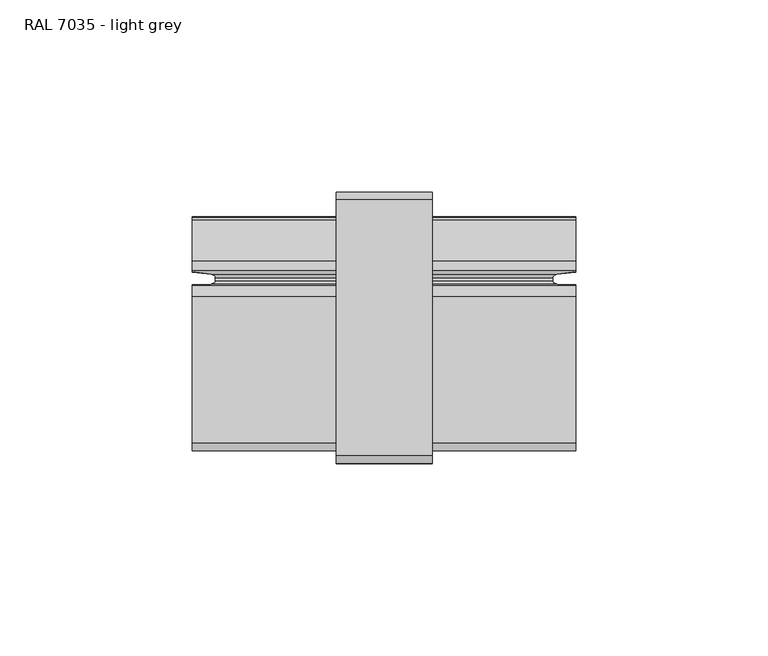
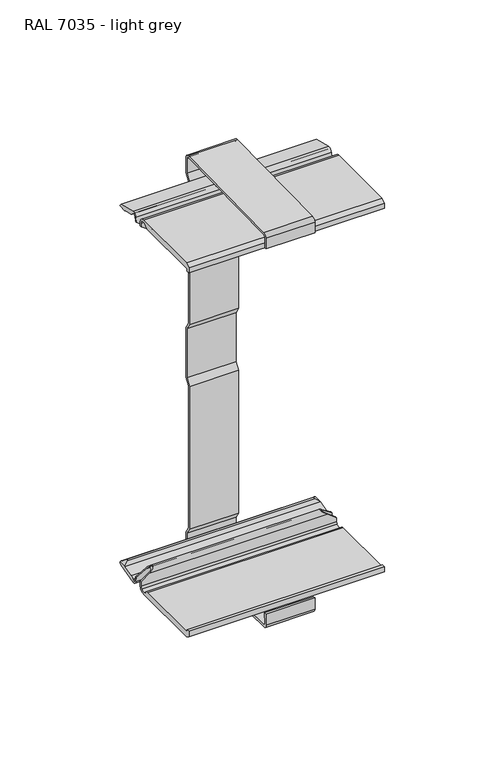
"""IFC4 building model written with IfcOpenShell, lengths in millimetres: cable carrier fitting geometry, Electrical_Installations_Hager_BRP-Cover-Joint-And-Coupling-Set-Two-Compartments : RAL 7035 - light grey."""

from ifc_helpers import new_model, si_unit, point, frame, frame_2d, origin, place, context, project, spatial, polyline, circle_curve, ellipse_curve, trimmed, segment, composite_curve, outline, extrude, source, transform, mapped, element, save
from ifc_brep_helpers import plane_surface, cylinder_surface, revolved_surface, advanced_brep


def ral_7035_light_grey_b6fd4582(model_context):
    return source(origin(), model_context, "Body", "SolidModel", [
        advanced_brep(
        [(62.4539331, 9.9349646, -101.0), (62.4539331, 12.8937369, -98.1922299), (62.4539331, 13.0071302, -96.0285563), (62.4539331, 12.2060324, -96.0285563), (62.4539331, 12.0972278, -98.1046719), (62.4539331, 11.5722919, -99.3374822), (62.4539331, 8.6154068, -99.3374822), (62.4539331, 6.2408586, -98.0), (62.4539331, -28.4602638, -98.0), (62.4539331, -28.6935202, -96.8), (62.4539331, -30.1909579, -96.8), (62.4539331, -30.1909579, -99.5922147), (62.4539331, -28.1804322, -101.0), (62.4539331, 17.5959093, -98.5220563), (62.4539331, 17.156238, -96.0285563), (62.4539331, 16.3438967, -96.0285563), (62.4539331, 16.7875988, -98.5449161), (62.4539331, 19.2813243, -100.1597234), (62.4539331, 29.987087, -97.4606875), (62.4539331, 30.6071146, -96.6025774), (62.4539331, 30.713567, -96.0285563), (62.4539331, 26.7038341, -96.0285563), (62.4539331, 26.5295278, -96.269794), (62.4539331, 20.75928, -97.7245344), (62.4539331, 19.3924465, -98.8388343), (-37.4991238, 9.9349646, -101.0), (-37.4991238, -28.1804322, -101.0), (-37.4991238, -30.1909579, -99.5922147), (-37.4991238, -30.1909579, -96.8), (-37.4991238, -28.6935202, -96.8), (-37.4991238, -28.4602638, -98.0), (-37.4991238, 6.2408586, -98.0), (-37.4991238, 8.6154068, -99.3374822), (-37.4991238, 11.5722919, -99.3374822), (-37.4991238, 12.0972278, -98.1046719), (-37.4991238, 12.2043745, -96.0601898), (-37.4991238, 13.0054724, -96.0601898), (-37.4991238, 12.8937369, -98.1922299), (-37.4991238, 16.7875988, -98.5449161), (-37.4991238, 16.3494745, -96.0601898), (-37.4991238, 17.1618158, -96.0601898), (-37.4991238, 17.5959093, -98.5220563), (-37.4991238, 19.3924465, -98.8388343), (-37.4991238, 20.75928, -97.7245344), (-37.4991238, 26.5295278, -96.269794), (-37.4991238, 26.6809773, -96.0601898), (-37.4991238, 30.7211446, -96.0601898), (-37.4991238, 30.6071146, -96.6025774), (-37.4991238, 29.987087, -97.4606875), (-37.4991238, 19.2813243, -100.1597234), (57.9778928, 12.3702379, -92.8953281), (-32.9778928, 12.3702379, -92.8953281), (57.6312864, 16.5609841, -92.6527036), (-32.6312864, 16.5609841, -92.6527036), (60.3582956, 27.7637764, -94.5616101), (-35.3582956, 27.7637764, -94.5616101), (60.1356976, 28.7311779, -94.4057914), (-35.1356976, 28.7311779, -94.4057914), (61.9137661, 30.4537544, -95.6504394), (-36.9137661, 30.4537544, -95.6504394), (57.5108131, 15.7337729, -92.5683724), (-32.5108131, 15.7337729, -92.5683724), (56.4131383, 14.8180624, -91.8), (-31.4131383, 14.8180624, -91.8), (56.4131383, 14.0248885, -91.8), (-31.4131383, 14.0248885, -91.8), (57.5489353, 13.1870723, -92.5950579), (-32.5489353, 13.1870723, -92.5950579)],
        [
            (0, 1, circle_curve(frame((62.4539331, 9.9349646, -98.0371673), z_axis=(1.0, 0.0, 0.0), x_axis=(0.0, 1.0, 0.0)), 2.9628327)),
            (1, 2),
            (2, 3),
            (3, 4),
            (4, 5, circle_curve(frame((62.4539331, 10.1471153, -98.0024709), z_axis=(-1.0, 0.0, 0.0), x_axis=(0.0, 1.0, 0.0)), 1.9527887)),
            (5, 6, circle_curve(frame((62.4539331, 10.0938494, -98.0511502), z_axis=(-1.0, 0.0, 0.0), x_axis=(0.0, 1.0, 0.0)), 1.9597046)),
            (6, 7, circle_curve(frame((62.4539331, 6.1704137, -100.9016788), z_axis=(1.0, 0.0, 0.0), x_axis=(0.0, 1.0, 0.0)), 2.9025338)),
            (7, 8),
            (8, 9),
            (9, 10),
            (10, 11),
            (11, 12),
            (12, 0),
            (13, 14),
            (14, 15),
            (15, 16),
            (16, 17, circle_curve(frame((62.4539331, 18.7854041, -98.1926491), z_axis=(1.0, 0.0, 0.0), x_axis=(0.0, 1.0, 0.0)), 2.0286246)),
            (17, 18),
            (18, 19),
            (19, 20, circle_curve(frame((62.4539331, 30.0543655, -96.2031885), z_axis=(1.0, 0.0, 0.0), x_axis=(0.0, 1.0, 0.0)), 0.6819406)),
            (20, 21),
            (21, 22),
            (22, 23),
            (23, 24, circle_curve(frame((62.4539331, 21.9440803, -100.5732952), z_axis=(1.0, 0.0, 0.0), x_axis=(0.0, 1.0, 0.0)), 3.0853184)),
            (24, 13, circle_curve(frame((62.4539331, 18.5653797, -98.2766396), z_axis=(-1.0, 0.0, 0.0), x_axis=(0.0, 1.0, 0.0)), 1.0000511)),
            (25, 26),
            (26, 27),
            (27, 28),
            (28, 29),
            (29, 30),
            (30, 31),
            (31, 32, circle_curve(frame((-37.4991238, 6.1704137, -100.9016788), z_axis=(-1.0, 0.0, 0.0), x_axis=(0.0, 1.0, 0.0)), 2.9025338)),
            (32, 33, circle_curve(frame((-37.4991238, 10.0938494, -98.0511502), z_axis=(1.0, 0.0, 0.0), x_axis=(0.0, 1.0, 0.0)), 1.9597046)),
            (33, 34, circle_curve(frame((-37.4991238, 10.1471153, -98.0024709), z_axis=(1.0, 0.0, 0.0), x_axis=(0.0, 1.0, 0.0)), 1.9527887)),
            (34, 35),
            (35, 36),
            (36, 37),
            (37, 25, circle_curve(frame((-37.4991238, 9.9349646, -98.0371673), z_axis=(-1.0, 0.0, 0.0), x_axis=(0.0, 1.0, 0.0)), 2.9628327)),
            (38, 39),
            (39, 40),
            (40, 41),
            (41, 42, circle_curve(frame((-37.4991238, 18.5653797, -98.2766396), z_axis=(1.0, 0.0, 0.0), x_axis=(0.0, 1.0, 0.0)), 1.0000511)),
            (42, 43, circle_curve(frame((-37.4991238, 21.9440803, -100.5732952), z_axis=(-1.0, 0.0, 0.0), x_axis=(0.0, 1.0, 0.0)), 3.0853184)),
            (43, 44),
            (44, 45),
            (45, 46),
            (46, 47, circle_curve(frame((-37.4991238, 30.0543655, -96.2031885), z_axis=(-1.0, 0.0, 0.0), x_axis=(0.0, 1.0, 0.0)), 0.6819406)),
            (47, 48),
            (48, 49),
            (49, 38, circle_curve(frame((-37.4991238, 18.7854041, -98.1926491), z_axis=(-1.0, 0.0, 0.0), x_axis=(0.0, 1.0, 0.0)), 2.0286246)),
            (12, 26),
            (25, 0),
            (11, 27),
            (10, 28),
            (9, 29),
            (8, 30),
            (7, 31),
            (6, 32),
            (5, 33),
            (4, 34),
            (3, 50),
            (50, 51),
            (51, 35),
            (50, 52, ellipse_curve(frame((58.1555194, 14.479833, -93.0196667), z_axis=(-0.5734623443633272, 0.0, -0.8192319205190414), x_axis=(0.8192319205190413, 0.0, -0.5734623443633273)), 3.6850827, 2.1132562)),
            (52, 53),
            (53, 51, ellipse_curve(frame((-33.1555194, 14.479833, -93.0196667), z_axis=(0.5734623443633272, 0.0, -0.8192319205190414), x_axis=(0.8192319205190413, 0.0, 0.5734623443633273)), 3.6850827, 2.1132562)),
            (40, 53),
            (52, 14),
            (13, 41),
            (24, 42),
            (23, 43),
            (22, 44),
            (21, 54),
            (54, 55),
            (55, 45),
            (54, 56, ellipse_curve(frame((60.9379976, 28.3253864, -94.9674015), z_axis=(-0.5734623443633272, 0.0, -0.8192319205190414), x_axis=(0.8192319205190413, 0.0, -0.5734623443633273)), 1.208227, 0.6928727)),
            (56, 57),
            (57, 55, ellipse_curve(frame((-35.9379976, 28.3253864, -94.9674015), z_axis=(0.5734623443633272, 0.0, -0.8192319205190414), x_axis=(0.8192319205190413, 0.0, 0.5734623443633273)), 1.208227, 0.6928727)),
            (56, 58),
            (58, 59),
            (59, 57),
            (46, 59, ellipse_curve(frame((-37.7034076, 30.0543655, -96.2031885), z_axis=(0.5734623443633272, 0.0, -0.8192319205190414), x_axis=(0.8192319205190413, 0.0, 0.5734623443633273)), 1.1891637, 0.6819406)),
            (58, 20, ellipse_curve(frame((62.7034076, 30.0543655, -96.2031885), z_axis=(-0.5734623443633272, 0.0, -0.8192319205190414), x_axis=(0.8192319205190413, 0.0, -0.5734623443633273)), 1.1891637, 0.6819406)),
            (19, 47),
            (18, 48),
            (17, 49),
            (16, 38),
            (15, 60),
            (60, 61),
            (61, 39),
            (60, 62, ellipse_curve(frame((57.7414767, 14.8180624, -92.7298368), z_axis=(0.5734623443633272, 0.0, 0.8192319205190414), x_axis=(-0.8192319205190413, 0.0, 0.5734623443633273)), 1.6214436, 0.9298368)),
            (62, 63),
            (63, 61, ellipse_curve(frame((-32.7414767, 14.8180624, -92.7298368), z_axis=(-0.5734623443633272, 0.0, 0.8192319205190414), x_axis=(-0.8192319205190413, 0.0, -0.5734623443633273)), 1.6214436, 0.9298368)),
            (62, 64),
            (64, 65),
            (65, 63),
            (64, 66, ellipse_curve(frame((57.6116611, 14.0248885, -92.638966), z_axis=(0.5734623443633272, 0.0, 0.8192319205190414), x_axis=(-0.8192319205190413, 0.0, 0.5734623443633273)), 1.4629835, 0.838966)),
            (66, 67),
            (67, 65, ellipse_curve(frame((-32.6116611, 14.0248885, -92.638966), z_axis=(-0.5734623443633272, 0.0, 0.8192319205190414), x_axis=(-0.8192319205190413, 0.0, -0.5734623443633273)), 1.4629835, 0.838966)),
            (36, 67),
            (66, 2),
            (1, 37),
        ],
        [
            plane_surface(frame((62.4539331, -28.1804322, -101.0), z_axis=(1.0, 0.0, 0.0), x_axis=(0.0, -1.0, 0.0))),
            plane_surface(frame((-37.4991238, -28.1804322, -101.0), z_axis=(-1.0, 0.0, 0.0), x_axis=(0.0, 1.0, 0.0))),
            plane_surface(frame((62.4539331, 9.9349646, -101.0), z_axis=(0.0, 0.0, -1.0), x_axis=(-1.0, 0.0, 0.0))),
            plane_surface(frame((62.4539331, -28.1804322, -101.0), z_axis=(0.0, -0.5735764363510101, -0.8191520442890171), x_axis=(-1.0, 0.0, 0.0))),
            plane_surface(frame((62.4539331, -30.1909579, -99.5922147), z_axis=(0.0, -1.0, 0.0), x_axis=(-1.0, 0.0, 0.0))),
            plane_surface(frame((62.4539331, -30.1909579, -96.8), z_axis=(0.0, 0.0, 1.0), x_axis=(-1.0, 0.0, 0.0))),
            plane_surface(frame((62.4539331, -28.6935202, -96.8), z_axis=(0.0, 0.9816271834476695, 0.19080899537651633), x_axis=(-1.0, 0.0, 0.0))),
            plane_surface(frame((62.4539331, -28.4602638, -98.0), z_axis=(0.0, 0.0, 1.0), x_axis=(-1.0, 0.0, 0.0))),
            cylinder_surface(frame((-37.4991238, 6.1704137, -100.9016788), z_axis=(1.0, 0.0, 0.0), x_axis=(0.0, 1.0, 0.0)), 2.9025338),
            revolved_surface(polyline([(-37.4991238, 12.053554, -98.0511502), (62.45393310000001, 12.053554, -98.0511502)]), (-37.4991238, 10.0938494, -98.0511502), (-1.0, 0.0, 0.0)),
            revolved_surface(polyline([(-37.4991238, 12.099903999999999, -98.0024709), (62.45393310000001, 12.099903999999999, -98.0024709)]), (-37.4991238, 10.1471153, -98.0024709), (-1.0, 0.0, 0.0)),
            plane_surface(frame((62.4539331, 12.0972278, -98.1046719), z_axis=(0.0, -0.9986295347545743, 0.05233595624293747), x_axis=(-1.0, 0.0, 0.0))),
            cylinder_surface(frame((-37.4991238, 14.479833, -93.0196667), z_axis=(1.0, 0.0, 0.0), x_axis=(0.0, 1.0, 0.0)), 2.1132562),
            plane_surface(frame((62.4539331, 16.5609841, -92.6527036), z_axis=(0.0, 0.9848077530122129, 0.17364817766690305), x_axis=(-1.0, 0.0, 0.0))),
            revolved_surface(polyline([(-37.4991238, 19.5654308, -98.2766396), (62.45393310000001, 19.5654308, -98.2766396)]), (-37.4991238, 18.5653797, -98.2766396), (-1.0, 0.0, 0.0)),
            cylinder_surface(frame((-37.4991238, 21.9440803, -100.5732952), z_axis=(1.0, 0.0, 0.0), x_axis=(0.0, 1.0, 0.0)), 3.0853184),
            plane_surface(frame((62.4539331, 20.75928, -97.7245344), z_axis=(0.0, -0.2444612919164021, 0.9696590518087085), x_axis=(-1.0, 0.0, 0.0))),
            plane_surface(frame((62.4539331, 26.5295278, -96.269794), z_axis=(0.0, -0.8105530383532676, 0.585665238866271), x_axis=(-1.0, 0.0, 0.0))),
            cylinder_surface(frame((-37.4991238, 28.3253864, -94.9674015), z_axis=(1.0, 0.0, 0.0), x_axis=(0.0, 1.0, 0.0)), 0.6928727),
            plane_surface(frame((62.4539331, 28.7311779, -94.4057914), z_axis=(0.0, 0.5856652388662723, 0.8105530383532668), x_axis=(-1.0, 0.0, 0.0))),
            cylinder_surface(frame((-37.4991238, 30.0543655, -96.2031885), z_axis=(1.0, 0.0, 0.0), x_axis=(0.0, 1.0, 0.0)), 0.6819406),
            plane_surface(frame((62.4539331, 30.6071146, -96.6025774), z_axis=(0.0, 0.8105530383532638, -0.5856652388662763), x_axis=(-1.0, 0.0, 0.0))),
            plane_surface(frame((62.4539331, 29.987087, -97.4606875), z_axis=(0.0, 0.2444612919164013, -0.9696590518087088), x_axis=(-1.0, 0.0, 0.0))),
            cylinder_surface(frame((-37.4991238, 18.7854041, -98.1926491), z_axis=(1.0, 0.0, 0.0), x_axis=(0.0, 1.0, 0.0)), 2.0286246),
            plane_surface(frame((62.4539331, 16.7875988, -98.5449161), z_axis=(0.0, -0.9848077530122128, -0.1736481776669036), x_axis=(-1.0, 0.0, 0.0))),
            revolved_surface(polyline([(-34.06981505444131, 15.7478992, -92.7298368), (59.069815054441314, 15.7478992, -92.7298368)]), (-37.4991238, 14.8180624, -92.7298368), (-1.0, 0.0, 0.0)),
            plane_surface(frame((62.4539331, 14.8180624, -91.8), z_axis=(0.0, 0.0, -1.0), x_axis=(-1.0, 0.0, 0.0))),
            revolved_surface(polyline([(-33.810183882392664, 14.863854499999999, -92.638966), (58.81018388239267, 14.863854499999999, -92.638966)]), (-37.4991238, 14.0248885, -92.638966), (-1.0, 0.0, 0.0)),
            plane_surface(frame((62.4539331, 13.1870723, -92.5950579), z_axis=(0.0, 0.9986295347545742, -0.05233595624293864), x_axis=(-1.0, 0.0, 0.0))),
            cylinder_surface(frame((-37.4991238, 9.9349646, -98.0371673), z_axis=(1.0, 0.0, 0.0), x_axis=(0.0, 1.0, 0.0)), 2.9628327),
            plane_surface(frame((-29.049591, -36.0, -90.1455169), z_axis=(-0.5734623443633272, 0.0, 0.8192319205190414), x_axis=(0.0, 1.0, 0.0))),
            plane_surface(frame((63.0724089, -36.0, -96.4614894), z_axis=(0.5734623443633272, 0.0, 0.8192319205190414), x_axis=(0.0, 1.0, 0.0))),
        ],
        [
            (0, [[1, 2, 3, 4, 5, 6, 7, 8, 9, 10, 11, 12, 13]]),
            (0, [[14, 15, 16, 17, 18, 19, 20, 21, 22, 23, 24, 25]]),
            (1, [[26, 27, 28, 29, 30, 31, 32, 33, 34, 35, 36, 37, 38]]),
            (1, [[39, 40, 41, 42, 43, 44, 45, 46, 47, 48, 49, 50]]),
            (2, [[51, -26, 52, -13]]),
            (3, [[53, -27, -51, -12]]),
            (4, [[54, -28, -53, -11]]),
            (5, [[55, -29, -54, -10]]),
            (6, [[56, -30, -55, -9]]),
            (7, [[57, -31, -56, -8]]),
            (8, [[58, -32, -57, -7]]),
            (9, [[59, -33, -58, -6]]),
            (10, [[60, -34, -59, -5]]),
            (11, [[-4, 61, 62, 63, -35, -60]]),
            (12, [[-62, 64, 65, 66]]),
            (13, [[-41, 67, -65, 68, -14, 69]]),
            (14, [[70, -42, -69, -25]]),
            (15, [[71, -43, -70, -24]]),
            (16, [[72, -44, -71, -23]]),
            (17, [[-22, 73, 74, 75, -45, -72]]),
            (18, [[-74, 76, 77, 78]]),
            (19, [[-77, 79, 80, 81]]),
            (20, [[-47, 82, -80, 83, -20, 84]]),
            (21, [[85, -48, -84, -19]]),
            (22, [[86, -49, -85, -18]]),
            (23, [[87, -50, -86, -17]]),
            (24, [[-16, 88, 89, 90, -39, -87]]),
            (25, [[-89, 91, 92, 93]]),
            (26, [[-92, 94, 95, 96]]),
            (27, [[-95, 97, 98, 99]]),
            (28, [[-37, 100, -98, 101, -2, 102]]),
            (29, [[-52, -38, -102, -1]]),
            (30, [[-63, -66, -67, -40, -90, -93, -96, -99, -100, -36]]),
            (30, [[-75, -78, -81, -82, -46]]),
            (31, [[-83, -79, -76, -73, -21]]),
            (31, [[-101, -97, -94, -91, -88, -15, -68, -64, -61, -3]]),
        ],
    ),
        advanced_brep(
        [(62.4539331, 9.9349646, 101.0), (62.4539331, -28.1804322, 101.0), (62.4539331, -30.1909579, 99.5922147), (62.4539331, -30.1909579, 96.8), (62.4539331, -28.6935202, 96.8), (62.4539331, -28.4602638, 98.0), (62.4539331, 6.2408586, 98.0), (62.4539331, 8.6154068, 99.3374822), (62.4539331, 11.5722919, 99.3374822), (62.4539331, 12.0972278, 98.1046719), (62.4539331, 12.2060324, 96.0285563), (62.4539331, 13.0071302, 96.0285563), (62.4539331, 12.8937369, 98.1922299), (62.4539331, 17.5959093, 98.5220563), (62.4539331, 19.3924465, 98.8388343), (62.4539331, 20.75928, 97.7245344), (62.4539331, 26.5295278, 96.269794), (62.4539331, 26.7038341, 96.0285563), (62.4539331, 30.713567, 96.0285563), (62.4539331, 30.6071146, 96.6025774), (62.4539331, 29.987087, 97.4606875), (62.4539331, 19.2813243, 100.1597234), (62.4539331, 16.7875988, 98.5449161), (62.4539331, 16.3438967, 96.0285563), (62.4539331, 17.156238, 96.0285563), (-37.4991238, 9.9349646, 101.0), (-37.4991238, 12.8937369, 98.1922299), (-37.4991238, 13.0054724, 96.0601898), (-37.4991238, 12.2043745, 96.0601898), (-37.4991238, 12.0972278, 98.1046719), (-37.4991238, 11.5722919, 99.3374822), (-37.4991238, 8.6154068, 99.3374822), (-37.4991238, 6.2408586, 98.0), (-37.4991238, -28.4602638, 98.0), (-37.4991238, -28.6935202, 96.8), (-37.4991238, -30.1909579, 96.8), (-37.4991238, -30.1909579, 99.5922147), (-37.4991238, -28.1804322, 101.0), (-37.4991238, 16.7875988, 98.5449161), (-37.4991238, 19.2813243, 100.1597234), (-37.4991238, 29.987087, 97.4606875), (-37.4991238, 30.6071146, 96.6025774), (-37.4991238, 30.7211446, 96.0601898), (-37.4991238, 26.6809773, 96.0601898), (-37.4991238, 26.5295278, 96.269794), (-37.4991238, 20.75928, 97.7245344), (-37.4991238, 19.3924465, 98.8388343), (-37.4991238, 17.5959093, 98.5220563), (-37.4991238, 17.1618158, 96.0601898), (-37.4991238, 16.3494745, 96.0601898), (-32.9778928, 12.3702379, 92.8953281), (57.9778928, 12.3702379, 92.8953281), (-32.6312864, 16.5609841, 92.6527036), (57.6312864, 16.5609841, 92.6527036), (-35.3582956, 27.7637764, 94.5616101), (60.3582956, 27.7637764, 94.5616101), (-35.1356976, 28.7311779, 94.4057914), (60.1356976, 28.7311779, 94.4057914), (-36.9137661, 30.4537544, 95.6504394), (61.9137661, 30.4537544, 95.6504394), (-32.5108131, 15.7337729, 92.5683724), (57.5108131, 15.7337729, 92.5683724), (-31.4131383, 14.8180624, 91.8), (56.4131383, 14.8180624, 91.8), (-31.4131383, 14.0248885, 91.8), (56.4131383, 14.0248885, 91.8), (-32.5489353, 13.1870723, 92.5950579), (57.5489353, 13.1870723, 92.5950579)],
        [
            (0, 1),
            (1, 2),
            (2, 3),
            (3, 4),
            (4, 5),
            (5, 6),
            (6, 7, circle_curve(frame((62.4539331, 6.1704137, 100.9016788), z_axis=(1.0, 0.0, 0.0), x_axis=(0.0, 1.0, 0.0)), 2.9025338)),
            (7, 8, circle_curve(frame((62.4539331, 10.0938494, 98.0511502), z_axis=(-1.0, 0.0, 0.0), x_axis=(0.0, 1.0, 0.0)), 1.9597046)),
            (8, 9, circle_curve(frame((62.4539331, 10.1471153, 98.0024709), z_axis=(-1.0, 0.0, 0.0), x_axis=(0.0, 1.0, 0.0)), 1.9527887)),
            (9, 10),
            (10, 11),
            (11, 12),
            (12, 0, circle_curve(frame((62.4539331, 9.9349646, 98.0371673), z_axis=(1.0, 0.0, 0.0), x_axis=(0.0, 1.0, 0.0)), 2.9628327)),
            (13, 14, circle_curve(frame((62.4539331, 18.5653797, 98.2766396), z_axis=(-1.0, 0.0, 0.0), x_axis=(0.0, 1.0, 0.0)), 1.0000511)),
            (14, 15, circle_curve(frame((62.4539331, 21.9440803, 100.5732952), z_axis=(1.0, 0.0, 0.0), x_axis=(0.0, 1.0, 0.0)), 3.0853184)),
            (15, 16),
            (16, 17),
            (17, 18),
            (18, 19, circle_curve(frame((62.4539331, 30.0543655, 96.2031885), z_axis=(1.0, 0.0, 0.0), x_axis=(0.0, 1.0, 0.0)), 0.6819406)),
            (19, 20),
            (20, 21),
            (21, 22, circle_curve(frame((62.4539331, 18.7854041, 98.1926491), z_axis=(1.0, 0.0, 0.0), x_axis=(0.0, 1.0, 0.0)), 2.0286246)),
            (22, 23),
            (23, 24),
            (24, 13),
            (25, 26, circle_curve(frame((-37.4991238, 9.9349646, 98.0371673), z_axis=(-1.0, 0.0, 0.0), x_axis=(0.0, 1.0, 0.0)), 2.9628327)),
            (26, 27),
            (27, 28),
            (28, 29),
            (29, 30, circle_curve(frame((-37.4991238, 10.1471153, 98.0024709), z_axis=(1.0, 0.0, 0.0), x_axis=(0.0, 1.0, 0.0)), 1.9527887)),
            (30, 31, circle_curve(frame((-37.4991238, 10.0938494, 98.0511502), z_axis=(1.0, 0.0, 0.0), x_axis=(0.0, 1.0, 0.0)), 1.9597046)),
            (31, 32, circle_curve(frame((-37.4991238, 6.1704137, 100.9016788), z_axis=(-1.0, 0.0, 0.0), x_axis=(0.0, 1.0, 0.0)), 2.9025338)),
            (32, 33),
            (33, 34),
            (34, 35),
            (35, 36),
            (36, 37),
            (37, 25),
            (38, 39, circle_curve(frame((-37.4991238, 18.7854041, 98.1926491), z_axis=(-1.0, 0.0, 0.0), x_axis=(0.0, 1.0, 0.0)), 2.0286246)),
            (39, 40),
            (40, 41),
            (41, 42, circle_curve(frame((-37.4991238, 30.0543655, 96.2031885), z_axis=(-1.0, 0.0, 0.0), x_axis=(0.0, 1.0, 0.0)), 0.6819406)),
            (42, 43),
            (43, 44),
            (44, 45),
            (45, 46, circle_curve(frame((-37.4991238, 21.9440803, 100.5732952), z_axis=(-1.0, 0.0, 0.0), x_axis=(0.0, 1.0, 0.0)), 3.0853184)),
            (46, 47, circle_curve(frame((-37.4991238, 18.5653797, 98.2766396), z_axis=(1.0, 0.0, 0.0), x_axis=(0.0, 1.0, 0.0)), 1.0000511)),
            (47, 48),
            (48, 49),
            (49, 38),
            (0, 25),
            (37, 1),
            (36, 2),
            (35, 3),
            (34, 4),
            (33, 5),
            (32, 6),
            (31, 7),
            (30, 8),
            (29, 9),
            (28, 50),
            (50, 51),
            (51, 10),
            (50, 52, ellipse_curve(frame((-33.1555194, 14.479833, 93.0196667), z_axis=(0.5734623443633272, 0.0, 0.8192319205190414), x_axis=(0.8192319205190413, 0.0, -0.5734623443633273)), 3.6850827, 2.1132562)),
            (52, 53),
            (53, 51, ellipse_curve(frame((58.1555194, 14.479833, 93.0196667), z_axis=(-0.5734623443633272, 0.0, 0.8192319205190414), x_axis=(0.8192319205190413, 0.0, 0.5734623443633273)), 3.6850827, 2.1132562)),
            (47, 13),
            (24, 53),
            (52, 48),
            (46, 14),
            (45, 15),
            (44, 16),
            (43, 54),
            (54, 55),
            (55, 17),
            (54, 56, ellipse_curve(frame((-35.9379976, 28.3253864, 94.9674015), z_axis=(0.5734623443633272, 0.0, 0.8192319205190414), x_axis=(0.8192319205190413, 0.0, -0.5734623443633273)), 1.208227, 0.6928727)),
            (56, 57),
            (57, 55, ellipse_curve(frame((60.9379976, 28.3253864, 94.9674015), z_axis=(-0.5734623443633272, 0.0, 0.8192319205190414), x_axis=(0.8192319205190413, 0.0, 0.5734623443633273)), 1.208227, 0.6928727)),
            (56, 58),
            (58, 59),
            (59, 57),
            (41, 19),
            (18, 59, ellipse_curve(frame((62.7034076, 30.0543655, 96.2031885), z_axis=(-0.5734623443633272, 0.0, 0.8192319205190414), x_axis=(0.8192319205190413, 0.0, 0.5734623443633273)), 1.1891637, 0.6819406)),
            (58, 42, ellipse_curve(frame((-37.7034076, 30.0543655, 96.2031885), z_axis=(0.5734623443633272, 0.0, 0.8192319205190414), x_axis=(0.8192319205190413, 0.0, -0.5734623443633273)), 1.1891637, 0.6819406)),
            (40, 20),
            (39, 21),
            (38, 22),
            (49, 60),
            (60, 61),
            (61, 23),
            (60, 62, ellipse_curve(frame((-32.7414767, 14.8180624, 92.7298368), z_axis=(-0.5734623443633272, 0.0, -0.8192319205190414), x_axis=(-0.8192319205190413, 0.0, 0.5734623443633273)), 1.6214436, 0.9298368)),
            (62, 63),
            (63, 61, ellipse_curve(frame((57.7414767, 14.8180624, 92.7298368), z_axis=(0.5734623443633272, 0.0, -0.8192319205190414), x_axis=(-0.8192319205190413, 0.0, -0.5734623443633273)), 1.6214436, 0.9298368)),
            (62, 64),
            (64, 65),
            (65, 63),
            (64, 66, ellipse_curve(frame((-32.6116611, 14.0248885, 92.638966), z_axis=(-0.5734623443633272, 0.0, -0.8192319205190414), x_axis=(-0.8192319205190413, 0.0, 0.5734623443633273)), 1.4629835, 0.838966)),
            (66, 67),
            (67, 65, ellipse_curve(frame((57.6116611, 14.0248885, 92.638966), z_axis=(0.5734623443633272, 0.0, -0.8192319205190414), x_axis=(-0.8192319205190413, 0.0, -0.5734623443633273)), 1.4629835, 0.838966)),
            (26, 12),
            (11, 67),
            (66, 27),
        ],
        [
            plane_surface(frame((62.4539331, -28.1804322, 101.0), z_axis=(1.0, 0.0, 0.0), x_axis=(0.0, -1.0, 0.0))),
            plane_surface(frame((-37.4991238, -28.1804322, 101.0), z_axis=(-1.0, 0.0, 0.0), x_axis=(0.0, 1.0, 0.0))),
            plane_surface(frame((62.4539331, 9.9349646, 101.0), z_axis=(0.0, 0.0, 1.0), x_axis=(-1.0, 0.0, 0.0))),
            plane_surface(frame((62.4539331, -28.1804322, 101.0), z_axis=(0.0, -0.5735764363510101, 0.8191520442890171), x_axis=(-1.0, 0.0, 0.0))),
            plane_surface(frame((62.4539331, -30.1909579, 99.5922147), z_axis=(0.0, -1.0, 0.0), x_axis=(-1.0, 0.0, 0.0))),
            plane_surface(frame((62.4539331, -30.1909579, 96.8), z_axis=(0.0, 0.0, -1.0), x_axis=(-1.0, 0.0, 0.0))),
            plane_surface(frame((62.4539331, -28.6935202, 96.8), z_axis=(0.0, 0.9816271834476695, -0.19080899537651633), x_axis=(-1.0, 0.0, 0.0))),
            plane_surface(frame((62.4539331, -28.4602638, 98.0), z_axis=(0.0, 0.0, -1.0), x_axis=(-1.0, 0.0, 0.0))),
            cylinder_surface(frame((-37.4991238, 6.1704137, 100.9016788), z_axis=(1.0, 0.0, 0.0), x_axis=(0.0, 1.0, 0.0)), 2.9025338),
            revolved_surface(polyline([(-37.4991238, 12.053554, 98.0511502), (62.45393310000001, 12.053554, 98.0511502)]), (-37.4991238, 10.0938494, 98.0511502), (-1.0, 0.0, 0.0)),
            revolved_surface(polyline([(-37.4991238, 12.099903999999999, 98.0024709), (62.45393310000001, 12.099903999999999, 98.0024709)]), (-37.4991238, 10.1471153, 98.0024709), (-1.0, 0.0, 0.0)),
            plane_surface(frame((62.4539331, 12.0972278, 98.1046719), z_axis=(0.0, -0.9986295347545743, -0.05233595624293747), x_axis=(-1.0, 0.0, 0.0))),
            cylinder_surface(frame((-37.4991238, 14.479833, 93.0196667), z_axis=(1.0, 0.0, 0.0), x_axis=(0.0, 1.0, 0.0)), 2.1132562),
            plane_surface(frame((62.4539331, 16.5609841, 92.6527036), z_axis=(0.0, 0.9848077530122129, -0.17364817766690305), x_axis=(-1.0, 0.0, 0.0))),
            revolved_surface(polyline([(-37.4991238, 19.5654308, 98.2766396), (62.45393310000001, 19.5654308, 98.2766396)]), (-37.4991238, 18.5653797, 98.2766396), (-1.0, 0.0, 0.0)),
            cylinder_surface(frame((-37.4991238, 21.9440803, 100.5732952), z_axis=(1.0, 0.0, 0.0), x_axis=(0.0, 1.0, 0.0)), 3.0853184),
            plane_surface(frame((62.4539331, 20.75928, 97.7245344), z_axis=(0.0, -0.2444612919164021, -0.9696590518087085), x_axis=(-1.0, 0.0, 0.0))),
            plane_surface(frame((62.4539331, 26.5295278, 96.269794), z_axis=(0.0, -0.8105530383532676, -0.585665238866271), x_axis=(-1.0, 0.0, 0.0))),
            cylinder_surface(frame((-37.4991238, 28.3253864, 94.9674015), z_axis=(1.0, 0.0, 0.0), x_axis=(0.0, 1.0, 0.0)), 0.6928727),
            plane_surface(frame((62.4539331, 28.7311779, 94.4057914), z_axis=(0.0, 0.5856652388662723, -0.8105530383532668), x_axis=(-1.0, 0.0, 0.0))),
            cylinder_surface(frame((-37.4991238, 30.0543655, 96.2031885), z_axis=(1.0, 0.0, 0.0), x_axis=(0.0, 1.0, 0.0)), 0.6819406),
            plane_surface(frame((62.4539331, 30.6071146, 96.6025774), z_axis=(0.0, 0.8105530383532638, 0.5856652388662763), x_axis=(-1.0, 0.0, 0.0))),
            plane_surface(frame((62.4539331, 29.987087, 97.4606875), z_axis=(0.0, 0.2444612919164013, 0.9696590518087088), x_axis=(-1.0, 0.0, 0.0))),
            cylinder_surface(frame((-37.4991238, 18.7854041, 98.1926491), z_axis=(1.0, 0.0, 0.0), x_axis=(0.0, 1.0, 0.0)), 2.0286246),
            plane_surface(frame((62.4539331, 16.7875988, 98.5449161), z_axis=(0.0, -0.9848077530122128, 0.1736481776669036), x_axis=(-1.0, 0.0, 0.0))),
            revolved_surface(polyline([(-34.06981505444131, 15.7478992, 92.7298368), (59.069815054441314, 15.7478992, 92.7298368)]), (-37.4991238, 14.8180624, 92.7298368), (-1.0, 0.0, 0.0)),
            plane_surface(frame((62.4539331, 14.8180624, 91.8), z_axis=(0.0, 0.0, 1.0), x_axis=(-1.0, 0.0, 0.0))),
            revolved_surface(polyline([(-33.810183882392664, 14.863854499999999, 92.638966), (58.81018388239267, 14.863854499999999, 92.638966)]), (-37.4991238, 14.0248885, 92.638966), (-1.0, 0.0, 0.0)),
            plane_surface(frame((62.4539331, 13.1870723, 92.5950579), z_axis=(0.0, 0.9986295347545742, 0.05233595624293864), x_axis=(-1.0, 0.0, 0.0))),
            cylinder_surface(frame((-37.4991238, 9.9349646, 98.0371673), z_axis=(1.0, 0.0, 0.0), x_axis=(0.0, 1.0, 0.0)), 2.9628327),
            plane_surface(frame((-29.049591, -36.0, 90.1455169), z_axis=(-0.5734623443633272, 0.0, -0.8192319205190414), x_axis=(0.0, 1.0, 0.0))),
            plane_surface(frame((63.0724089, -36.0, 96.4614894), z_axis=(0.5734623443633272, 0.0, -0.8192319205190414), x_axis=(0.0, 1.0, 0.0))),
        ],
        [
            (0, [[1, 2, 3, 4, 5, 6, 7, 8, 9, 10, 11, 12, 13]]),
            (0, [[14, 15, 16, 17, 18, 19, 20, 21, 22, 23, 24, 25]]),
            (1, [[26, 27, 28, 29, 30, 31, 32, 33, 34, 35, 36, 37, 38]]),
            (1, [[39, 40, 41, 42, 43, 44, 45, 46, 47, 48, 49, 50]]),
            (2, [[-1, 51, -38, 52]]),
            (3, [[-2, -52, -37, 53]]),
            (4, [[-3, -53, -36, 54]]),
            (5, [[-4, -54, -35, 55]]),
            (6, [[-5, -55, -34, 56]]),
            (7, [[-6, -56, -33, 57]]),
            (8, [[-7, -57, -32, 58]]),
            (9, [[-8, -58, -31, 59]]),
            (10, [[-9, -59, -30, 60]]),
            (11, [[-60, -29, 61, 62, 63, -10]]),
            (12, [[64, 65, 66, -62]]),
            (13, [[67, -25, 68, -65, 69, -48]]),
            (14, [[-14, -67, -47, 70]]),
            (15, [[-15, -70, -46, 71]]),
            (16, [[-16, -71, -45, 72]]),
            (17, [[-72, -44, 73, 74, 75, -17]]),
            (18, [[76, 77, 78, -74]]),
            (19, [[79, 80, 81, -77]]),
            (20, [[82, -19, 83, -80, 84, -42]]),
            (21, [[-20, -82, -41, 85]]),
            (22, [[-21, -85, -40, 86]]),
            (23, [[-22, -86, -39, 87]]),
            (24, [[-87, -50, 88, 89, 90, -23]]),
            (25, [[91, 92, 93, -89]]),
            (26, [[94, 95, 96, -92]]),
            (27, [[97, 98, 99, -95]]),
            (28, [[100, -12, 101, -98, 102, -27]]),
            (29, [[-13, -100, -26, -51]]),
            (30, [[-28, -102, -97, -94, -91, -88, -49, -69, -64, -61]]),
            (30, [[-43, -84, -79, -76, -73]]),
            (31, [[-11, -63, -66, -68, -24, -90, -93, -96, -99, -101]]),
            (31, [[-18, -75, -78, -81, -83]]),
        ],
    ),
        extrude(outline(composite_curve([segment(polyline([(-31.5195975, -105.3826385), (35.1220398, -106.5544786)]), True, "CONTINUOUS"), segment(trimmed(circle_curve(frame_2d((35.1396386, -105.553647)), 1.0009864), [point((35.1220398, -106.5544786))], [point((36.140625, -105.553647))], True, "CARTESIAN"), True, "CONTINUOUS"), segment(polyline([(36.140625, -105.553647), (36.140625, -97.2320508), (34.140625, -93.7679492), (34.140625, -16.7320508), (36.140625, -13.2679492), (36.140625, 13.2679492), (34.140625, 16.7320508), (34.140625, 93.7679492), (36.3038603, 97.2320508), (36.3038603, 105.151644)]), True, "CONTINUOUS"), segment(trimmed(circle_curve(frame_2d((35.0625756, 105.151644)), 1.2412847), [point((36.3038603, 105.151644))], [point((35.0824122, 106.3927702))], True, "CARTESIAN"), True, "CONTINUOUS"), segment(polyline([(35.0824122, 106.3927702), (-31.594234, 105.2308928)]), True, "CONTINUOUS"), segment(trimmed(circle_curve(frame_2d((-31.5771161, 104.2485455)), 0.9824964), [point((-31.594234, 105.2308928))], [point((-32.5594632, 104.2314191))], True, "CARTESIAN"), True, "CONTINUOUS"), segment(polyline([(-32.5594632, 104.2314191), (-32.4625021, 98.669862), (-33.5115685, 98.6515724), (-33.5115685, 104.3884227)]), True, "CONTINUOUS"), segment(trimmed(circle_curve(frame_2d((-31.4740588, 104.2049732)), 2.0457515), [point((-33.5115685, 104.3884227))], [point((-31.5163009, 106.2502886))], False, "CARTESIAN"), True, "CONTINUOUS"), segment(polyline([(-31.5163009, 106.2502886), (35.0949754, 107.4153536)]), True, "CONTINUOUS"), segment(trimmed(circle_curve(frame_2d((35.1301345, 105.4051706)), 2.0104905), [point((35.0949754, 107.4153536))], [point((37.140625, 105.4051706))], False, "CARTESIAN"), True, "CONTINUOUS"), segment(polyline([(37.140625, 105.4051706), (37.140625, 96.9641016), (35.140625, 93.5), (35.140625, 17.0), (37.140625, 13.5358984), (37.140625, -13.5358984), (35.140625, -17.0), (35.140625, -93.5), (37.140625, -96.9641016), (37.140625, -106.0771546)]), True, "CONTINUOUS"), segment(trimmed(circle_curve(frame_2d((35.6513346, -106.0771546)), 1.4892904), [point((37.140625, -106.0771546))], [point((35.6251507, -107.5662148))], False, "CARTESIAN"), True, "CONTINUOUS"), segment(polyline([(35.6251507, -107.5662148), (-32.6607076, -106.3654624)]), True, "CONTINUOUS"), segment(trimmed(circle_curve(frame_2d((-31.4159502, -104.6474541)), 2.1215498), [point((-32.6607076, -106.3654624))], [point((-33.5375, -104.6474541))], False, "CARTESIAN"), True, "CONTINUOUS"), segment(polyline([(-33.5375, -104.6474541), (-33.5375, -98.6433612), (-32.4333835, -98.6626336), (-32.5323731, -104.3337456)]), True, "CONTINUOUS"), segment(trimmed(circle_curve(frame_2d((-31.5014723, -104.35174)), 1.0310579), [point((-32.5323731, -104.3337456))], [point((-31.5195975, -105.3826385))], True, "CARTESIAN"), True, "CONTINUOUS")], self_intersect=False)), frame((0.0, 0.0, 0.0), z_axis=(1.0, 0.0, 0.0), x_axis=(0.0, 1.0, 0.0)), (0.0, 0.0, 1.0), 25.0),
    ])


if __name__ == "__main__":
    model = new_model("IFC4")
    model_context = context("Model", 3, world=origin())
    ifc_project = project(units=[si_unit("LENGTHUNIT", "METRE", prefix="MILLI")], contexts=[model_context])
    site = spatial("IfcSite", under=ifc_project)
    building = spatial("IfcBuilding", under=site)
    placement = place(None, origin())
    ral_7035_light_grey_shape = ral_7035_light_grey_b6fd4582(model_context)
    element("IfcCableCarrierFitting", 1, ObjectType="Electrical_Installations_Hager_BRP-Cover-Joint-And-Coupling-Set-Two-Compartments : RAL 7035 - light grey", at=placement, inside=building, context=model_context, shape_type="MappedRepresentation", body=[
        mapped(ral_7035_light_grey_shape, transform((0.0, 0.0, 0.0), x_axis=(1.0, 0.0, 0.0), y_axis=(0.0, 1.0, 0.0), z_axis=(0.0, 0.0, 1.0))),
    ])
    save(model, "model.ifc")
